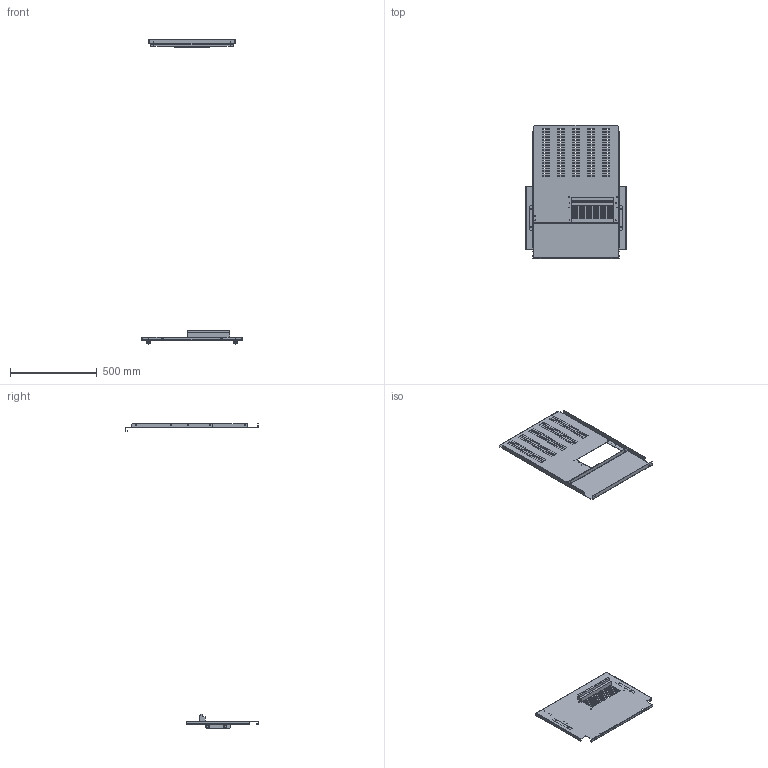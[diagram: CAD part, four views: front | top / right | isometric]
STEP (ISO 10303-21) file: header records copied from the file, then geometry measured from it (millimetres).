
FILE_DESCRIPTION(('CAx-IF Rec.Pracs.---Model Styling and Organization---1.2---2011-12-15','CAx-IF Rec.Pracs.---Geometric and Assembly Validation Properties---4.1---2014-06-16','CAx-IF Rec.Pracs.---PMI Polyline Presentation---2.0---2013-05-24'),'2;1');
FILE_NAME('R5M2UBFS8 (2200x600x800).stp','2021-05-05T12:08:14+03:00',(''),(''),'STEP Interface 4.4 by CT CoreTechnologie','3D_Evolution4.4 by CT CoreTechnologie','');
FILE_SCHEMA(('AUTOMOTIVE_DESIGN { 1 0 10303 214 1 1 1 1 }'));
Length unit declared in the file: millimetre
Products named in the file (9): R5M2UBFS8; M8-DIN 6923 (CM100800)_thread; RB.0876.00.00.0_-01; M8x16-DIN 6921_thread; RB.0878.00.00.0_-00; RB.0837.00.00.0_-00; RB.0837.00.00.0_-01; RB.0792.00.00.0_-00; RB.0877.00.00.0_-00
Assembly tree (14 placements, depth 2):
  R5M2UBFS8
    M8-DIN 6923 (CM100800)_thread  x4
    RB.0876.00.00.0_-01
    M8x16-DIN 6921_thread  x4
    RB.0878.00.00.0_-00
    RB.0837.00.00.0_-00
    RB.0837.00.00.0_-01
    RB.0792.00.00.0_-00
    RB.0877.00.00.0_-00
Bounding box: 580 x 765.5 x 1757 mm (x, y, z)
Surface area: 1978438.5 mm2 (no closed solid volume)
Topology: 0 solids, 14 shells, 1702 faces, 4663 edges, 2985 vertices
Faces by surface type: plane 1212, bspline 264, cylinder 226
Entity records: 48455 total; most frequent: CARTESIAN_POINT 9657, ORIENTED_EDGE 8138, DIRECTION 7153, EDGE_CURVE 4069, VECTOR 3591, LINE 3591, VERTEX_POINT 2661, EDGE_LOOP 2012
